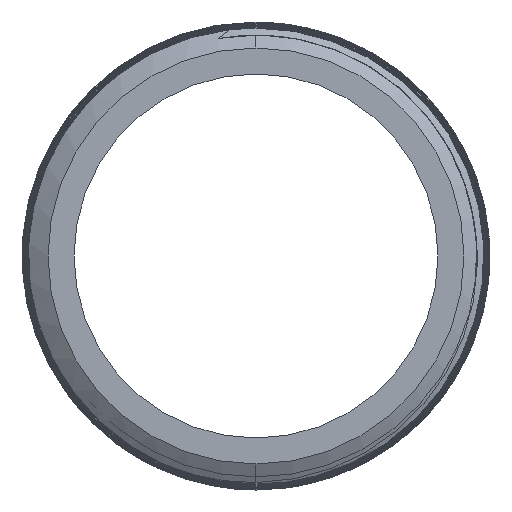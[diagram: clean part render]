
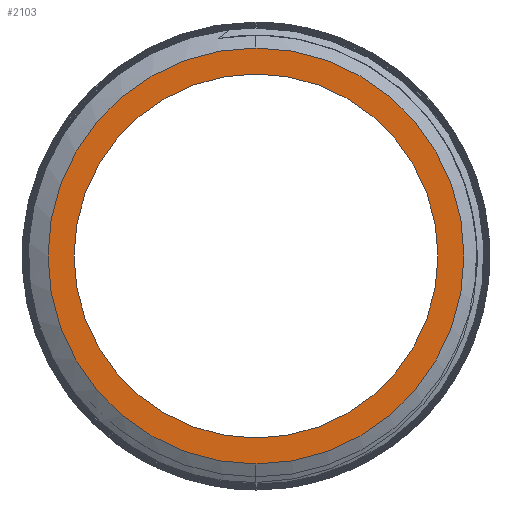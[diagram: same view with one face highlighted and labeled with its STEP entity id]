
A CAD part, left-side view. The second image highlights one B-rep face of the part: STEP entity #2103.
In plain terms, the highlighted planar face has unit normal (-1, 0, 0).
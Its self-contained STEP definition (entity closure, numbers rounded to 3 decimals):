
#54 = EDGE_LOOP ( 'NONE', ( #7955, #9801 ) ) ;
#235 = DIRECTION ( 'NONE',  ( -1., 0., 0. ) ) ;
#280 = EDGE_CURVE ( 'NONE', #6111, #8098, #10270, .T. ) ;
#601 = CARTESIAN_POINT ( 'NONE',  ( -35., 0., 0. ) ) ;
#608 = CARTESIAN_POINT ( 'NONE',  ( -35., 5.25, 0. ) ) ;
#1170 = CARTESIAN_POINT ( 'NONE',  ( -35., 0., -6. ) ) ;
#1360 = AXIS2_PLACEMENT_3D ( 'NONE', #7957, #235, #6184 ) ;
#1364 = CARTESIAN_POINT ( 'NONE',  ( -35., 0., -5.25 ) ) ;
#1476 = DIRECTION ( 'NONE',  ( -1., 0., 0. ) ) ;
#1558 = AXIS2_PLACEMENT_3D ( 'NONE', #601, #1476, #7935 ) ;
#1609 = DIRECTION ( 'NONE',  ( -1., 0., 0. ) ) ;
#1704 = CIRCLE ( 'NONE', #1360, 5.25 ) ;
#1857 = CARTESIAN_POINT ( 'NONE',  ( -35., 0., 6. ) ) ;
#1987 = VERTEX_POINT ( 'NONE', #4584 ) ;
#2103 = ADVANCED_FACE ( 'NONE', ( #10655, #5466 ), #3125, .F. ) ;
#2350 = AXIS2_PLACEMENT_3D ( 'NONE', #8326, #1609, #10042 ) ;
#2733 = AXIS2_PLACEMENT_3D ( 'NONE', #10649, #10333, #2812 ) ;
#2812 = DIRECTION ( 'NONE',  ( 0., 0., 1. ) ) ;
#3125 = PLANE ( 'NONE',  #7197 ) ;
#4257 = EDGE_CURVE ( 'NONE', #5475, #1987, #1704, .T. ) ;
#4584 = CARTESIAN_POINT ( 'NONE',  ( -35., 0., 5.25 ) ) ;
#5466 = FACE_OUTER_BOUND ( 'NONE', #54, .T. ) ;
#5475 = VERTEX_POINT ( 'NONE', #1364 ) ;
#5829 = CIRCLE ( 'NONE', #2350, 6. ) ;
#6111 = VERTEX_POINT ( 'NONE', #1170 ) ;
#6184 = DIRECTION ( 'NONE',  ( 0., 0., 1. ) ) ;
#7197 = AXIS2_PLACEMENT_3D ( 'NONE', #608, #9865, #9815 ) ;
#7485 = CIRCLE ( 'NONE', #1558, 5.25 ) ;
#7935 = DIRECTION ( 'NONE',  ( 0., 0., 1. ) ) ;
#7955 = ORIENTED_EDGE ( 'NONE', *, *, #280, .T. ) ;
#7957 = CARTESIAN_POINT ( 'NONE',  ( -35., 0., 0. ) ) ;
#8098 = VERTEX_POINT ( 'NONE', #1857 ) ;
#8326 = CARTESIAN_POINT ( 'NONE',  ( -35., 0., 0. ) ) ;
#8331 = EDGE_LOOP ( 'NONE', ( #10102, #9593 ) ) ;
#9228 = EDGE_CURVE ( 'NONE', #1987, #5475, #7485, .T. ) ;
#9593 = ORIENTED_EDGE ( 'NONE', *, *, #4257, .F. ) ;
#9801 = ORIENTED_EDGE ( 'NONE', *, *, #10758, .T. ) ;
#9815 = DIRECTION ( 'NONE',  ( 0., 0., -1. ) ) ;
#9865 = DIRECTION ( 'NONE',  ( 1., 0., 0. ) ) ;
#10042 = DIRECTION ( 'NONE',  ( 0., 0., 1. ) ) ;
#10102 = ORIENTED_EDGE ( 'NONE', *, *, #9228, .F. ) ;
#10270 = CIRCLE ( 'NONE', #2733, 6. ) ;
#10333 = DIRECTION ( 'NONE',  ( -1., 0., 0. ) ) ;
#10649 = CARTESIAN_POINT ( 'NONE',  ( -35., 0., 0. ) ) ;
#10655 = FACE_BOUND ( 'NONE', #8331, .T. ) ;
#10758 = EDGE_CURVE ( 'NONE', #8098, #6111, #5829, .T. ) ;
